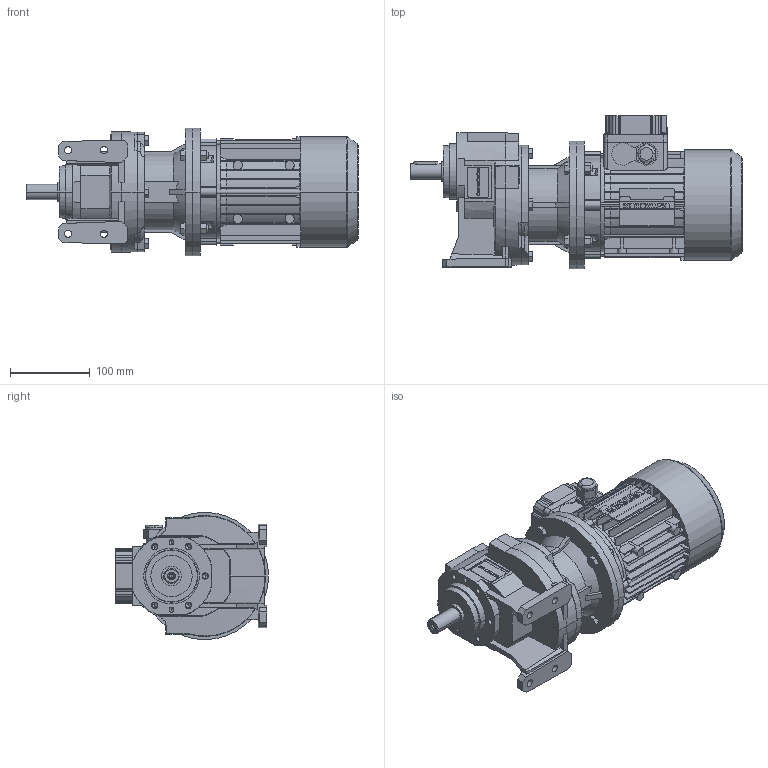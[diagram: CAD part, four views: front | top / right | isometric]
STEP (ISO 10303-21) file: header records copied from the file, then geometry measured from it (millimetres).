
FILE_DESCRIPTION( ( '' ), '1' );
FILE_NAME( '//expscmdclustefs.cadenas.external/client_exchange/iodir/jobs/output/wkb51934606_no0/STEP/H041U1_4471_B519x400T0711_2_03.stp', '2012-12-04T09:12:39', ( '' ), ( '' ), ' ', ' ', ' ' );
FILE_SCHEMA( ( 'CONFIG_CONTROL_DESIGN' ) );
Length unit declared in the file: millimetre
Products named in the file (10): 1; 2; 3; 4; 5; 6; 7; 8; 9; 10
Bounding box: 417.5 x 192.5 x 160 mm (x, y, z)
Volume: 5144700.4 mm3; surface area: 515385.8 mm2
Topology: 10 solids, 10 shells, 2188 faces, 6063 edges, 4008 vertices
Faces by surface type: plane 1164, cylinder 893, cone 116, torus 11, sphere 4
Entity records: 71718 total; most frequent: CARTESIAN_POINT 14001, DIRECTION 12265, ORIENTED_EDGE 12090, EDGE_CURVE 6045, AXIS2_PLACEMENT_3D 4297, VERTEX_POINT 4008, LINE 3671, VECTOR 3671
